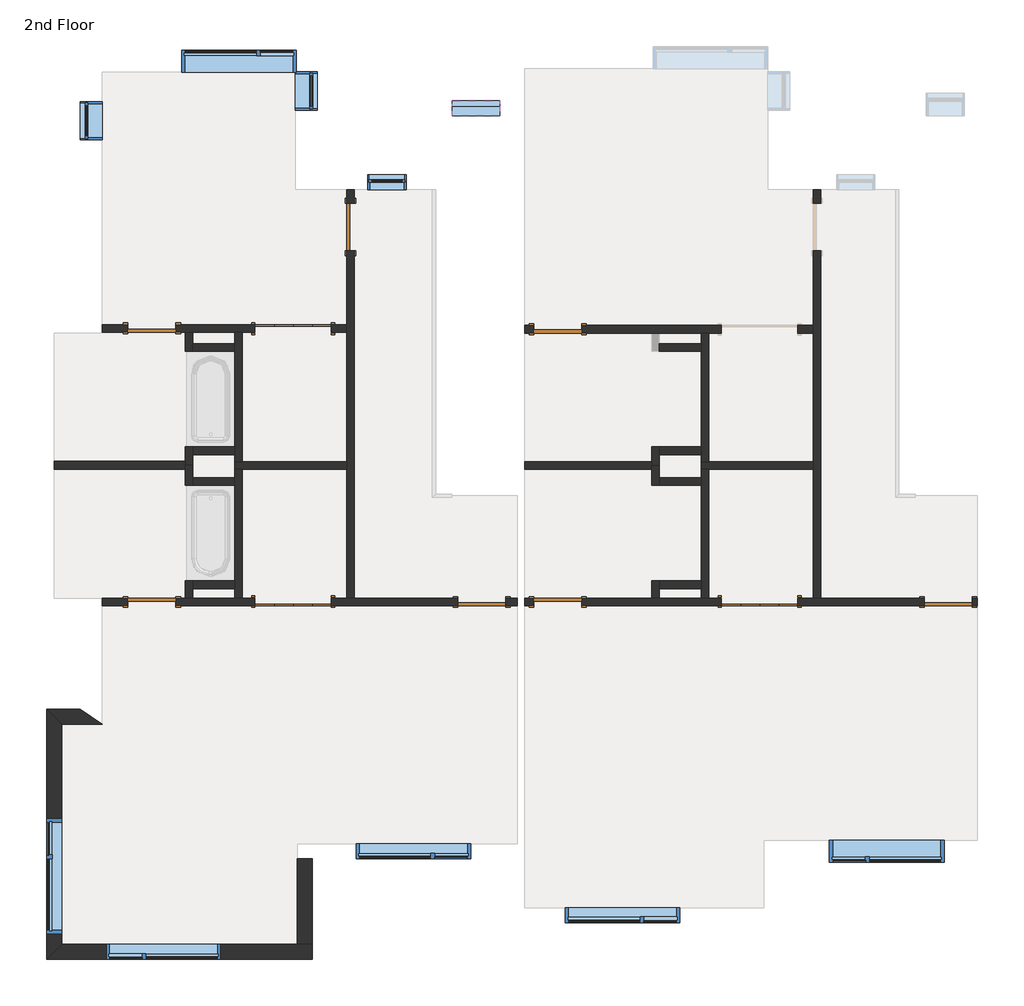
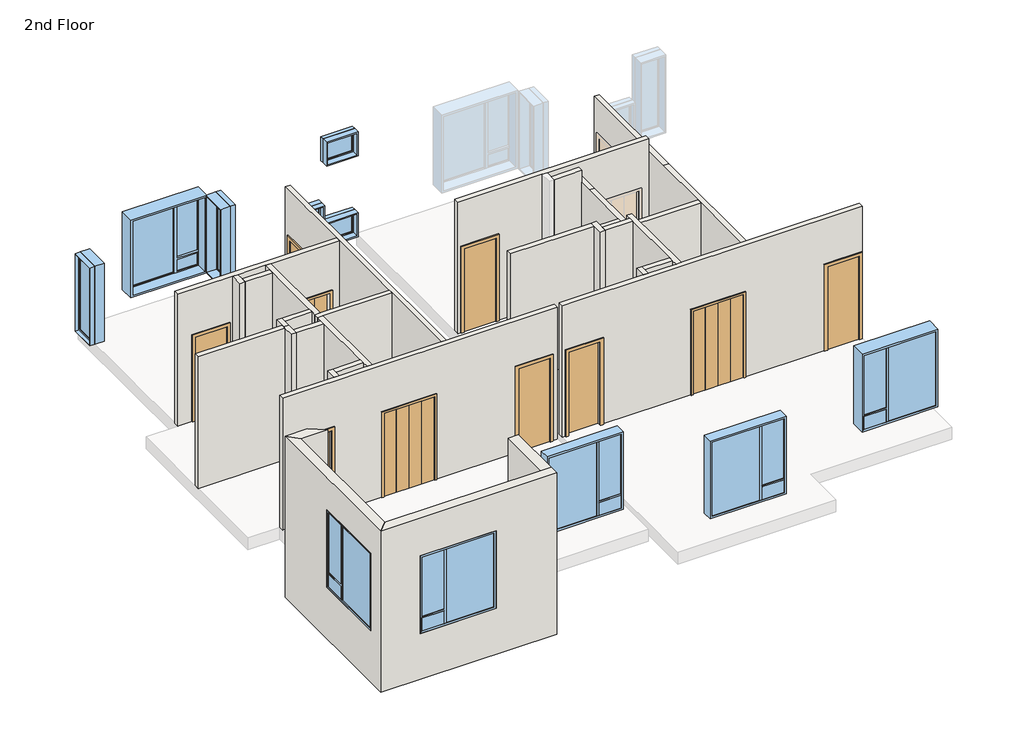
# One storey, part 1 of 2: 33 walls, 12 windows, 10 doors.
"""IFC4 building model written with IfcOpenShell, lengths in millimetres."""

from ifc_helpers import new_model, si_unit, frame, origin, place, context, project, spatial, polyline, outline, extrude, faceted_brep, transform, mapped, element, save
from components import bifold_4_panel_c9060b8c, bifold_4_panel_87549022, door_f8acb57e, door_702a1063, window_8bf192ed, window_b1c1038b, window_03925a3a, window_7b40078c, window_0ea17b29, window_b4566f23

model = new_model("IFC4")

# Units and contexts
model_context = context("Model", 3, world=origin())
ifc_project = project(units=[si_unit("LENGTHUNIT", "METRE", prefix="MILLI")], contexts=[model_context])

# Site, building, storey
site = spatial("IfcSite", under=ifc_project)
building = spatial("IfcBuilding", under=site)
storey = spatial("IfcBuildingStorey", under=building, Name="2nd Floor", Elevation=3352.8)

# Doors
placement = place(None, origin())
bifold_4_panel_shape = bifold_4_panel_c9060b8c(model_context)
element("IfcDoor", 1, ObjectType="Bifold - 4 panel : 48\" x  84\"", at=placement, inside=storey, context=model_context, shape_type="MappedRepresentation", body=[
    mapped(bifold_4_panel_shape, transform((2169.4655789, -2059.4561915, 3352.8), x_axis=(1.0, 0.0, 0.0), y_axis=(0.0, 1.0, 0.0), z_axis=(0.0, 0.0, 1.0))),
])
element("IfcDoor", 2, ObjectType="Bifold - 4 panel : 48\" x  84\"", at=placement, inside=storey, context=model_context, shape_type="MappedRepresentation", body=[
    mapped(bifold_4_panel_shape, transform((-5271.2844211, -2059.4561915, 3352.8), x_axis=(1.0, 0.0, 0.0), y_axis=(0.0, 1.0, 0.0), z_axis=(0.0, 0.0, 1.0))),
])
bifold_4_panel_2_shape = bifold_4_panel_87549022(model_context)
element("IfcDoor", 3, ObjectType="Bifold - 4 panel : 48\" x  84\"", at=placement, inside=storey, context=model_context, shape_type="MappedRepresentation", body=[
    mapped(bifold_4_panel_2_shape, transform((-5271.2844211, 2303.8199206, 3352.8), x_axis=(1.0, 0.0, 0.0), y_axis=(0.0, 1.0, 0.0), z_axis=(0.0, 0.0, 1.0))),
])
door_shape = door_f8acb57e(model_context)
element("IfcDoor", 4, ObjectType="Single-Flush : 30\" x 84\"", at=placement, inside=storey, context=model_context, shape_type="MappedRepresentation", body=[
    mapped(door_shape, transform((-1052.2446781, 2292.6699206, 3352.8), x_axis=(-1.0, 0.0, 0.0), y_axis=(0.0, -1.0, 0.0), z_axis=(0.0, 0.0, 1.0))),
])
element("IfcDoor", 5, ObjectType="Single-Flush : 30\" x 84\"", at=placement, inside=storey, context=model_context, shape_type="MappedRepresentation", body=[
    mapped(door_shape, transform((-4356.8844211, 3921.3063085, 3352.8), x_axis=(0.0, 1.0, 0.0), y_axis=(-1.0, 0.0, 0.0), z_axis=(0.0, 0.0, 1.0))),
])
element("IfcDoor", 6, ObjectType="Single-Flush : 30\" x 84\"", at=placement, inside=storey, context=model_context, shape_type="MappedRepresentation", body=[
    mapped(door_shape, transform((-7524.7446781, -2059.4561915, 3352.8), x_axis=(1.0, 0.0, 0.0), y_axis=(0.0, 1.0, 0.0), z_axis=(0.0, 0.0, 1.0))),
])
door_2_shape = door_702a1063(model_context)
element("IfcDoor", 7, ObjectType="Single-Flush : 30\" x 84\"", at=placement, inside=storey, context=model_context, shape_type="MappedRepresentation", body=[
    mapped(door_2_shape, transform((-1052.2446781, -2059.4561915, 3352.8), x_axis=(-1.0, 0.0, 0.0), y_axis=(0.0, -1.0, 0.0), z_axis=(0.0, 0.0, 1.0))),
])
element("IfcDoor", 8, ObjectType="Single-Flush : 30\" x 84\"", at=placement, inside=storey, context=model_context, shape_type="MappedRepresentation", body=[
    mapped(door_2_shape, transform((5177.5155789, -2059.4561915, 3352.8), x_axis=(1.0, 0.0, 0.0), y_axis=(0.0, 1.0, 0.0), z_axis=(0.0, 0.0, 1.0))),
])
element("IfcDoor", 9, ObjectType="Single-Flush : 30\" x 84\"", at=placement, inside=storey, context=model_context, shape_type="MappedRepresentation", body=[
    mapped(door_2_shape, transform((-7524.7446781, 2303.8199206, 3352.8), x_axis=(1.0, 0.0, 0.0), y_axis=(0.0, 1.0, 0.0), z_axis=(0.0, 0.0, 1.0))),
])
element("IfcDoor", 10, ObjectType="Single-Flush : 30\" x 84\"", at=placement, inside=storey, context=model_context, shape_type="MappedRepresentation", body=[
    mapped(door_2_shape, transform((-2263.2344211, -2059.4561915, 3352.8), x_axis=(1.0, 0.0, 0.0), y_axis=(0.0, 1.0, 0.0), z_axis=(0.0, 0.0, 1.0))),
])

# Walls
element("IfcWall", 11, ObjectType="Exterior - Stucco", at=placement, inside=storey, context=model_context, shape_type="Brep", body=[
    faceted_brep([(-9204.3196781, -7758.9936915, 2952.8), (-4962.9321781, -7758.9936915, 2952.8), (-4962.9321781, -7758.9936915, 7052.8), (-9204.3196781, -7758.9936915, 7052.8), (-8255.0946781, -7758.9936915, 6096.0), (-6426.2946781, -7758.9936915, 6096.0), (-6426.2946781, -7758.9936915, 4114.8), (-8255.0946781, -7758.9936915, 4114.8), (-8963.0196781, -7517.6936915, 2952.8), (-8963.0196781, -7517.6936915, 7052.8), (-5204.2321781, -7517.6936915, 7052.8), (-4962.9321781, -7517.6936915, 7052.8), (-4962.9321781, -7517.6936915, 2952.8), (-5204.2321781, -7517.6936915, 2952.8), (-8255.0946781, -7517.6936915, 6096.0), (-8255.0946781, -7517.6936915, 4114.8), (-6426.2946781, -7517.6936915, 4114.8), (-6426.2946781, -7517.6936915, 6096.0)], [[[0, 1, 2, 3], [4, 5, 6, 7]], [[8, 9, 10, 11, 12, 13], [14, 15, 16, 17]], [[1, 0, 8, 13, 12]], [[3, 2, 11, 10, 9]], [[0, 3, 9, 8]], [[2, 1, 12, 11]], [[15, 14, 4, 7]], [[16, 15, 7, 6]], [[17, 16, 6, 5]], [[14, 17, 5, 4]]]),
])
element("IfcWall", 12, ObjectType="Exterior - Stucco", at=placement, inside=storey, context=model_context, shape_type="Brep", body=[
    faceted_brep([(-9204.3196781, -3770.7811915, 2952.8), (-9204.3196781, -7758.9936915, 2952.8), (-9204.3196781, -7758.9936915, 7052.8), (-9204.3196781, -3770.7811915, 7052.8), (-9204.3196781, -5519.0311915, 6248.4), (-9204.3196781, -7347.8311915, 6248.4), (-9204.3196781, -7347.8311915, 4267.2), (-9204.3196781, -5519.0311915, 4267.2), (-8963.0196781, -4012.0811915, 2952.8), (-8963.0196781, -4012.0811915, 7052.8), (-8963.0196781, -7517.6936915, 7052.8), (-8963.0196781, -7517.6936915, 2952.8), (-8963.0196781, -5519.0311915, 6248.4), (-8963.0196781, -5519.0311915, 4267.2), (-8963.0196781, -7347.8311915, 4267.2), (-8963.0196781, -7347.8311915, 6248.4)], [[[0, 1, 2, 3], [4, 5, 6, 7]], [[8, 9, 10, 11], [12, 13, 14, 15]], [[1, 0, 8, 11]], [[3, 2, 10, 9]], [[2, 1, 11, 10]], [[0, 3, 9, 8]], [[13, 12, 4, 7]], [[14, 13, 7, 6]], [[15, 14, 6, 5]], [[12, 15, 5, 4]]]),
])
element("IfcWall", 13, ObjectType="Exterior - Stucco", at=placement, inside=storey, context=model_context, shape_type="SweptSolid", body=[
    extrude(outline(polyline([(-9204.3196781, -3770.7811915), (-8664.6696781, -3770.7811915), (-8312.2446781, -4012.0811915), (-8963.0196781, -4012.0811915), (-9204.3196781, -3770.7811915)])), frame((0.0, 0.0, 2952.8), z_axis=(0.0, 0.0, 1.0), x_axis=(1.0, 0.0, 0.0)), (0.0, 0.0, 1.0), 4100.0),
])
element("IfcWall", 14, ObjectType="Exterior - Stucco", at=placement, inside=storey, context=model_context, shape_type="Brep", body=[
    faceted_brep([(-4962.9321781, -7517.6936915, 2952.75), (-4962.9321781, -6155.1546456, 2952.75), (-4962.9321781, -6155.1546456, 7052.6671875), (-4962.9321781, -7517.6936915, 7052.6671875), (-5204.2321781, -7517.6936915, 2952.75), (-5204.2321781, -7517.6936915, 7052.6671875), (-5204.2321781, -6155.1546456, 7052.6671875), (-5204.2321781, -6155.1546456, 3048.0), (-5204.2321781, -6155.1546456, 2952.75)], [[[0, 1, 2, 3]], [[4, 5, 6, 7, 8]], [[1, 0, 4, 8]], [[3, 2, 6, 5]], [[1, 8, 7, 6, 2]], [[0, 3, 5, 4]]]),
])
element("IfcWall", 15, ObjectType="Interior - 4 7/8\" Partition (1-hr)", at=placement, inside=storey, context=model_context, shape_type="Brep", body=[
    faceted_brep([(3145.7780789, 4302.3063085, 5486.4), (3145.7780789, 4302.3063085, 3352.8), (3145.7780789, 4511.8563085, 3352.8), (3145.7780789, 4511.8563085, 6400.8), (3145.7780789, 1625.1313085, 6400.8), (3145.7780789, -1997.5436915, 6400.8), (3145.7780789, -1997.5436915, 3352.8), (3145.7780789, 3540.3063085, 3352.8), (3145.7780789, 3540.3063085, 5486.4), (3021.9530789, 4511.8563085, 3352.8), (3021.9530789, 4302.3063085, 3352.8), (3021.9530789, 4302.3063085, 5486.4), (3021.9530789, 3540.3063085, 5486.4), (3021.9530789, 3540.3063085, 3352.8), (3021.9530789, 2354.5824206, 3352.8), (3021.9530789, 2230.7574206, 3352.8), (3021.9530789, 178.5193646, 3352.8), (3021.9530789, 54.6943646, 3352.8), (3021.9530789, -1997.5436915, 3352.8), (3021.9530789, -1997.5436915, 6400.8), (3021.9530789, 54.6943646, 6400.8), (3021.9530789, 178.5193646, 6400.8), (3021.9530789, 1625.1313085, 6400.8), (3021.9530789, 4511.8563085, 6400.8)], [[[0, 1, 2, 3, 4, 5, 6, 7, 8]], [[9, 10, 11, 12, 13, 14, 15, 16, 17, 18, 19, 20, 21, 22, 23]], [[2, 1, 10, 9]], [[7, 6, 18, 17, 16, 15, 14, 13]], [[9, 23, 3, 2]], [[19, 18, 6, 5]], [[23, 22, 4, 3]], [[22, 21, 20, 19, 5, 4]], [[11, 10, 1, 0]], [[12, 11, 0, 8]], [[13, 12, 8, 7]]]),
])
element("IfcWall", 16, ObjectType="Interior - 4 7/8\" Partition (1-hr)", at=placement, inside=storey, context=model_context, shape_type="Brep", body=[
    faceted_brep([(3021.9530789, 54.6943646, 3352.8), (3021.9530789, 54.6943646, 6400.8), (1235.1530789, 54.6943646, 6400.8), (1235.1530789, 54.6943646, 3352.8), (1358.9780789, 54.6943646, 3352.8), (3021.9530789, 178.5193646, 3352.8), (1358.9780789, 178.5193646, 3352.8), (1235.1530789, 178.5193646, 3352.8), (1235.1530789, 178.5193646, 6400.8), (1358.9780789, 178.5193646, 6400.8), (3021.9530789, 178.5193646, 6400.8)], [[[0, 1, 2, 3, 4]], [[5, 6, 7, 8, 9, 10]], [[7, 6, 5, 0, 4, 3]], [[8, 7, 3, 2]], [[5, 10, 1, 0]], [[10, 9, 8, 2, 1]]]),
])
element("IfcWall", 17, ObjectType="Interior - 4 7/8\" Partition (1-hr)", at=placement, inside=storey, context=model_context, shape_type="Brep", body=[
    faceted_brep([(3021.9530789, 2354.5824206, 6705.6), (-1576.1196781, 2354.5824206, 6705.6), (-1576.1196781, 2230.7574206, 6705.6), (447.7530789, 2230.7574206, 6705.6), (571.5780789, 2230.7574206, 6705.6), (3021.9530789, 2230.7574206, 6705.6), (-1576.1196781, 2230.7574206, 3352.8), (-1433.2446781, 2230.7574206, 3352.8), (-1433.2446781, 2230.7574206, 5486.4), (-671.2446781, 2230.7574206, 5486.4), (-671.2446781, 2230.7574206, 3352.8), (447.7530789, 2230.7574206, 3352.8), (571.5780789, 2230.7574206, 3352.8), (1235.1530789, 2230.7574206, 3352.8), (1358.9780789, 2230.7574206, 3352.8), (1559.8655789, 2230.7574206, 3352.8), (1559.8655789, 2230.7574206, 5486.4), (2779.0655789, 2230.7574206, 5486.4), (2779.0655789, 2230.7574206, 3352.8), (3021.9530789, 2230.7574206, 3352.8), (3021.9530789, 2354.5824206, 3352.8), (2779.0655789, 2354.5824206, 3352.8), (2779.0655789, 2354.5824206, 5486.4), (1559.8655789, 2354.5824206, 5486.4), (1559.8655789, 2354.5824206, 3352.8), (-671.2446781, 2354.5824206, 3352.8), (-671.2446781, 2354.5824206, 5486.4), (-1433.2446781, 2354.5824206, 5486.4), (-1433.2446781, 2354.5824206, 3352.8), (-1576.1196781, 2354.5824206, 3352.8)], [[[0, 1, 2, 3, 4, 5]], [[5, 4, 3, 2, 6, 7, 8, 9, 10, 11, 12, 13, 14, 15, 16, 17, 18, 19]], [[1, 0, 20, 21, 22, 23, 24, 25, 26, 27, 28, 29]], [[20, 19, 18, 21]], [[6, 29, 28, 7]], [[24, 15, 14, 13, 12, 11, 10, 25]], [[20, 0, 5, 19]], [[1, 29, 6, 2]], [[17, 22, 21, 18]], [[22, 17, 16, 23]], [[23, 16, 15, 24]], [[27, 8, 7, 28]], [[8, 27, 26, 9]], [[9, 26, 25, 10]]]),
])
element("IfcWall", 18, ObjectType="Interior - 4 7/8\" Partition (1-hr)", at=placement, inside=storey, context=model_context, shape_type="Brep", body=[
    faceted_brep([(1235.1530789, 178.5193646, 3352.8), (1235.1530789, 178.5193646, 6400.8), (1235.1530789, 289.2824206, 6400.8), (1235.1530789, 413.1074206, 6400.8), (1235.1530789, 1625.1313085, 6400.8), (1235.1530789, 2230.7574206, 6400.8), (1235.1530789, 2230.7574206, 3352.8), (1235.1530789, 2060.9324206, 3352.8), (1235.1530789, 1937.1074206, 3352.8), (1235.1530789, 413.1074206, 3352.8), (1235.1530789, 289.2824206, 3352.8), (1358.9780789, 178.5193646, 3352.8), (1358.9780789, 2230.7574206, 3352.8), (1358.9780789, 2230.7574206, 6400.8), (1358.9780789, 1625.1313085, 6400.8), (1358.9780789, 178.5193646, 6400.8)], [[[0, 1, 2, 3, 4, 5, 6, 7, 8, 9, 10]], [[11, 12, 13, 14, 15]], [[12, 11, 0, 10, 9, 8, 7, 6]], [[11, 15, 1, 0]], [[13, 12, 6, 5]], [[14, 13, 5, 4]], [[15, 14, 4, 3, 2, 1]]]),
])
element("IfcWall", 19, ObjectType="Interior - 4 7/8\" Partition (1-hr)", at=placement, inside=storey, context=model_context, shape_type="SweptSolid", body=[
    extrude(outline(polyline([(1235.1530789, 1937.1074206), (571.5780789, 1937.1074206), (571.5780789, 2060.9324206), (1235.1530789, 2060.9324206), (1235.1530789, 1937.1074206)])), frame((0.0, 0.0, 3352.8), z_axis=(0.0, 0.0, 1.0), x_axis=(1.0, 0.0, 0.0)), (0.0, 0.0, 1.0), 3352.8),
])
element("IfcWall", 20, ObjectType="Interior - 4 7/8\" Partition (1-hr)", at=placement, inside=storey, context=model_context, shape_type="Brep", body=[
    faceted_brep([(571.5780789, 116.6068646, 3352.8), (571.5780789, 116.6068646, 6400.8), (447.7530789, 116.6068646, 6400.8), (447.7530789, 116.6068646, 3352.8), (447.7530789, 178.5193646, 6400.8), (447.7530789, 413.1074206, 6400.8), (447.7530789, 413.1074206, 3352.8), (447.7530789, 178.5193646, 3352.8), (571.5780789, 289.2824206, 3352.8), (571.5780789, 413.1074206, 3352.8), (571.5780789, 413.1074206, 6400.8), (571.5780789, 289.2824206, 6400.8), (571.5780789, 178.5193646, 6400.8)], [[[0, 1, 2, 3]], [[3, 2, 4, 5, 6, 7]], [[0, 8, 9, 10, 11, 12, 1]], [[9, 8, 0, 3, 7, 6]], [[10, 9, 6, 5]], [[1, 12, 11, 10, 5, 4, 2]]]),
])
element("IfcWall", 21, ObjectType="Interior - 4 7/8\" Partition (1-hr)", at=placement, inside=storey, context=model_context, shape_type="SweptSolid", body=[
    extrude(outline(polyline([(1235.1530789, 289.2824206), (571.5780789, 289.2824206), (571.5780789, 413.1074206), (1235.1530789, 413.1074206), (1235.1530789, 289.2824206)])), frame((0.0, 0.0, 3352.8), z_axis=(0.0, 0.0, 1.0), x_axis=(1.0, 0.0, 0.0)), (0.0, 0.0, 1.0), 3048.0),
])
element("IfcWall", 22, ObjectType="Interior - 4 7/8\" Partition (1-hr)", at=placement, inside=storey, context=model_context, shape_type="Brep", body=[
    faceted_brep([(5642.6530789, -1997.5436915, 3352.8), (5558.5155789, -1997.5436915, 3352.8), (5558.5155789, -1997.5436915, 5486.4), (4796.5155789, -1997.5436915, 5486.4), (4796.5155789, -1997.5436915, 3352.8), (3145.7780789, -1997.5436915, 3352.8), (3021.9530789, -1997.5436915, 3352.8), (2779.0655789, -1997.5436915, 3352.8), (2779.0655789, -1997.5436915, 5486.4), (1559.8655789, -1997.5436915, 5486.4), (1559.8655789, -1997.5436915, 3352.8), (1358.9780789, -1997.5436915, 3352.8), (1235.1530789, -1997.5436915, 3352.8), (571.5780789, -1997.5436915, 3352.8), (447.7530789, -1997.5436915, 3352.8), (-671.2446781, -1997.5436915, 3352.8), (-671.2446781, -1997.5436915, 5486.4), (-1433.2446781, -1997.5436915, 5486.4), (-1433.2446781, -1997.5436915, 3352.8), (-1576.1196781, -1997.5436915, 3352.8), (-1576.1196781, -1997.5436915, 6705.6), (447.7530789, -1997.5436915, 6705.6), (571.5780789, -1997.5436915, 6705.6), (1235.1530789, -1997.5436915, 6705.6), (1358.9780789, -1997.5436915, 6705.6), (5642.6530789, -1997.5436915, 6705.6), (5558.5155789, -2121.3686915, 5486.4), (5558.5155789, -2121.3686915, 3352.8), (5642.6530789, -2121.3686915, 3352.8), (5642.6530789, -2121.3686915, 6705.6), (-1576.1196781, -2121.3686915, 6705.6), (-1576.1196781, -2121.3686915, 3352.8), (-1433.2446781, -2121.3686915, 3352.8), (-1433.2446781, -2121.3686915, 5486.4), (-671.2446781, -2121.3686915, 5486.4), (-671.2446781, -2121.3686915, 3352.8), (1559.8655789, -2121.3686915, 3352.8), (1559.8655789, -2121.3686915, 5486.4), (2779.0655789, -2121.3686915, 5486.4), (2779.0655789, -2121.3686915, 3352.8), (4796.5155789, -2121.3686915, 3352.8), (4796.5155789, -2121.3686915, 5486.4)], [[[0, 1, 2, 3, 4, 5, 6, 7, 8, 9, 10, 11, 12, 13, 14, 15, 16, 17, 18, 19, 20, 21, 22, 23, 24, 25]], [[26, 27, 28, 29, 30, 31, 32, 33, 34, 35, 36, 37, 38, 39, 40, 41]], [[28, 27, 1, 0]], [[31, 19, 18, 32]], [[10, 36, 35, 15, 14, 13, 12, 11]], [[40, 39, 7, 6, 5, 4]], [[25, 24, 23, 22, 21, 20, 30, 29]], [[0, 25, 29, 28]], [[20, 19, 31, 30]], [[8, 7, 39, 38]], [[9, 8, 38, 37]], [[10, 9, 37, 36]], [[17, 33, 32, 18]], [[33, 17, 16, 34]], [[34, 16, 15, 35]], [[2, 1, 27, 26]], [[3, 2, 26, 41]], [[4, 3, 41, 40]]]),
])
element("IfcWall", 23, ObjectType="Interior - 4 7/8\" Partition (1-hr)", at=placement, inside=storey, context=model_context, shape_type="Brep", body=[
    faceted_brep([(1235.1530789, 54.6943646, 3352.8), (1235.1530789, -76.6556354, 3352.8), (1235.1530789, -200.4806354, 3352.8), (1235.1530789, -1724.4806354, 3352.8), (1235.1530789, -1848.3056354, 3352.8), (1235.1530789, -1997.5436915, 3352.8), (1235.1530789, -1997.5436915, 6705.6), (1235.1530789, -1848.3056354, 6705.6), (1235.1530789, -1724.4806354, 6705.6), (1235.1530789, -200.4806354, 6705.6), (1235.1530789, -76.6556354, 6705.6), (1235.1530789, 54.6943646, 6705.6), (1235.1530789, 54.6943646, 6400.8), (1358.9780789, 54.6943646, 3352.8), (1358.9780789, 54.6943646, 6705.6), (1358.9780789, -1997.5436915, 6705.6), (1358.9780789, -1997.5436915, 3352.8)], [[[0, 1, 2, 3, 4, 5, 6, 7, 8, 9, 10, 11, 12]], [[13, 14, 15, 16]], [[5, 4, 3, 2, 1, 0, 13, 16]], [[11, 10, 9, 8, 7, 6, 15, 14]], [[6, 5, 16, 15]], [[0, 12, 11, 14, 13]]]),
])
element("IfcWall", 24, ObjectType="Interior - 4 7/8\" Partition (1-hr)", at=placement, inside=storey, context=model_context, shape_type="Brep", body=[
    faceted_brep([(571.5780789, -1997.5436915, 3352.8), (571.5780789, -1848.3056354, 3352.8), (571.5780789, -1724.4806354, 3352.8), (571.5780789, -1724.4806354, 6705.6), (571.5780789, -1848.3056354, 6705.6), (571.5780789, -1997.5436915, 6705.6), (447.7530789, -1997.5436915, 3352.8), (447.7530789, -1997.5436915, 6705.6), (447.7530789, -1724.4806354, 6705.6), (447.7530789, -1724.4806354, 3352.8)], [[[0, 1, 2, 3, 4, 5]], [[6, 7, 8, 9]], [[2, 1, 0, 6, 9]], [[5, 4, 3, 8, 7]], [[3, 2, 9, 8]], [[0, 5, 7, 6]]]),
])
element("IfcWall", 25, ObjectType="Interior - 4 7/8\" Partition (1-hr)", at=placement, inside=storey, context=model_context, shape_type="SweptSolid", body=[
    extrude(outline(polyline([(1235.1530789, -1848.3056354), (571.5780789, -1848.3056354), (571.5780789, -1724.4806354), (1235.1530789, -1724.4806354), (1235.1530789, -1848.3056354)])), frame((0.0, 0.0, 3352.8), z_axis=(0.0, 0.0, 1.0), x_axis=(1.0, 0.0, 0.0)), (0.0, 0.0, 1.0), 3352.8),
])
element("IfcWall", 26, ObjectType="Interior - 4 7/8\" Partition (1-hr)", at=placement, inside=storey, context=model_context, shape_type="Brep", body=[
    faceted_brep([(447.7530789, 116.6068646, 3352.8), (447.7530789, 54.6943646, 3352.8), (447.7530789, -200.4806354, 3352.8), (447.7530789, -200.4806354, 6705.6), (447.7530789, 54.6943646, 6705.6), (447.7530789, 178.5193646, 6705.6), (447.7530789, 178.5193646, 6400.8), (447.7530789, 116.6068646, 6400.8), (571.5780789, 116.6068646, 3352.8), (571.5780789, 116.6068646, 6400.8), (571.5780789, 178.5193646, 6400.8), (571.5780789, 178.5193646, 6705.6), (571.5780789, -76.6556354, 6705.6), (571.5780789, -200.4806354, 6705.6), (571.5780789, -200.4806354, 3352.8), (571.5780789, -76.6556354, 3352.8)], [[[0, 1, 2, 3, 4, 5, 6, 7]], [[8, 9, 10, 11, 12, 13, 14, 15]], [[2, 1, 0, 8, 15, 14]], [[5, 4, 3, 13, 12, 11]], [[3, 2, 14, 13]], [[0, 7, 9, 8]], [[6, 10, 9, 7]], [[6, 5, 11, 10]]]),
])
element("IfcWall", 27, ObjectType="Interior - 4 7/8\" Partition (1-hr)", at=placement, inside=storey, context=model_context, shape_type="SweptSolid", body=[
    extrude(outline(polyline([(1235.1530789, -200.4806354), (571.5780789, -200.4806354), (571.5780789, -76.6556354), (1235.1530789, -76.6556354), (1235.1530789, -200.4806354)])), frame((0.0, 0.0, 3352.8), z_axis=(0.0, 0.0, 1.0), x_axis=(1.0, 0.0, 0.0)), (0.0, 0.0, 1.0), 3352.8),
])
element("IfcWall", 28, ObjectType="Interior - 4 7/8\" Partition (1-hr)", at=placement, inside=storey, context=model_context, shape_type="Brep", body=[
    faceted_brep([(447.7530789, 178.5193646, 6705.6), (447.7530789, 178.5193646, 6400.8), (447.7530789, 178.5193646, 3352.8), (-1576.1196781, 178.5193646, 3352.8), (-1576.1196781, 178.5193646, 6705.6), (447.7530789, 54.6943646, 3352.8), (447.7530789, 54.6943646, 6705.6), (-1576.1196781, 54.6943646, 6705.6), (-1576.1196781, 54.6943646, 3352.8), (447.7530789, 116.6068646, 3352.8)], [[[0, 1, 2, 3, 4]], [[5, 6, 7, 8]], [[3, 2, 9, 5, 8]], [[0, 4, 7, 6]], [[0, 6, 5, 9, 2, 1]], [[4, 3, 8, 7]]]),
])
element("IfcWall", 29, ObjectType="Interior - 4 7/8\" Partition (1-hr)", at=placement, inside=storey, context=model_context, shape_type="Brep", body=[
    faceted_brep([(-4418.7969211, 4511.8563085, 6705.6), (-4418.7969211, 2365.7324206, 6705.6), (-4418.7969211, 2241.9074206, 6705.6), (-4418.7969211, 178.5193646, 6705.6), (-4418.7969211, 54.6943646, 6705.6), (-4418.7969211, -1997.5436915, 6705.6), (-4294.9719211, -1997.5436915, 6705.6), (-4294.9719211, 4511.8563085, 6705.6), (-4294.9719211, 4302.3063085, 5486.4), (-4294.9719211, 4302.3063085, 3352.8), (-4294.9719211, 4511.8563085, 3352.8), (-4294.9719211, -1997.5436915, 3352.8), (-4294.9719211, 3540.3063085, 3352.8), (-4294.9719211, 3540.3063085, 5486.4), (-4418.7969211, 4511.8563085, 3352.8), (-4418.7969211, 4302.3063085, 3352.8), (-4418.7969211, 4302.3063085, 5486.4), (-4418.7969211, 3540.3063085, 5486.4), (-4418.7969211, 3540.3063085, 3352.8), (-4418.7969211, 2365.7324206, 3352.8), (-4418.7969211, 2241.9074206, 3352.8), (-4418.7969211, 178.5193646, 3352.8), (-4418.7969211, 54.6943646, 3352.8), (-4418.7969211, -1997.5436915, 3352.8)], [[[0, 1, 2, 3, 4, 5, 6, 7]], [[8, 9, 10, 7, 6, 11, 12, 13]], [[14, 15, 16, 17, 18, 19, 20, 21, 22, 23, 5, 4, 3, 2, 1, 0]], [[10, 9, 15, 14]], [[12, 11, 23, 22, 21, 20, 19, 18]], [[5, 23, 11, 6]], [[14, 0, 7, 10]], [[16, 15, 9, 8]], [[17, 16, 8, 13]], [[18, 17, 13, 12]]]),
])
element("IfcWall", 30, ObjectType="Interior - 4 7/8\" Partition (1-hr)", at=placement, inside=storey, context=model_context, shape_type="Brep", body=[
    faceted_brep([(-4418.7969211, 178.5193646, 3352.8), (-6081.7719211, 178.5193646, 3352.8), (-6205.5969211, 178.5193646, 3352.8), (-6205.5969211, 178.5193646, 6705.6), (-6081.7719211, 178.5193646, 6705.6), (-4418.7969211, 178.5193646, 6705.6), (-4418.7969211, 54.6943646, 3352.8), (-4418.7969211, 54.6943646, 6705.6), (-6081.7719211, 54.6943646, 6705.6), (-6205.5969211, 54.6943646, 6705.6), (-6205.5969211, 54.6943646, 3352.8), (-6081.7719211, 54.6943646, 3352.8)], [[[0, 1, 2, 3, 4, 5]], [[6, 7, 8, 9, 10, 11]], [[2, 1, 0, 6, 11, 10]], [[5, 4, 3, 9, 8, 7]], [[3, 2, 10, 9]], [[0, 5, 7, 6]]]),
])
element("IfcWall", 31, ObjectType="Interior - 4 7/8\" Partition (1-hr)", at=placement, inside=storey, context=model_context, shape_type="Brep", body=[
    faceted_brep([(-8312.2446781, 2365.7324206, 6705.6), (-4418.7969211, 2365.7324206, 6705.6), (-4418.7969211, 2365.7324206, 3352.8), (-4661.6844211, 2365.7324206, 3352.8), (-4661.6844211, 2365.7324206, 5486.4), (-5880.8844211, 2365.7324206, 5486.4), (-5880.8844211, 2365.7324206, 3352.8), (-7143.7446781, 2365.7324206, 3352.8), (-7143.7446781, 2365.7324206, 5486.4), (-7905.7446781, 2365.7324206, 5486.4), (-7905.7446781, 2365.7324206, 3352.8), (-8312.2446781, 2365.7324206, 3352.8), (-4418.7969211, 2241.9074206, 6705.6), (-6081.7719211, 2241.9074206, 6705.6), (-6205.5969211, 2241.9074206, 6705.6), (-6869.1719211, 2241.9074206, 6705.6), (-6992.9969211, 2241.9074206, 6705.6), (-8312.2446781, 2241.9074206, 6705.6), (-8312.2446781, 2241.9074206, 3352.8), (-7905.7446781, 2241.9074206, 3352.8), (-7905.7446781, 2241.9074206, 5486.4), (-7143.7446781, 2241.9074206, 5486.4), (-7143.7446781, 2241.9074206, 3352.8), (-6992.9969211, 2241.9074206, 3352.8), (-6869.1719211, 2241.9074206, 3352.8), (-6205.5969211, 2241.9074206, 3352.8), (-6081.7719211, 2241.9074206, 3352.8), (-5880.8844211, 2241.9074206, 3352.8), (-5880.8844211, 2241.9074206, 5486.4), (-4661.6844211, 2241.9074206, 5486.4), (-4661.6844211, 2241.9074206, 3352.8), (-4418.7969211, 2241.9074206, 3352.8)], [[[0, 1, 2, 3, 4, 5, 6, 7, 8, 9, 10, 11]], [[12, 13, 14, 15, 16, 17, 18, 19, 20, 21, 22, 23, 24, 25, 26, 27, 28, 29, 30, 31]], [[2, 31, 30, 3]], [[18, 11, 10, 19]], [[6, 27, 26, 25, 24, 23, 22, 7]], [[1, 0, 17, 16, 15, 14, 13, 12]], [[2, 1, 12, 31]], [[0, 11, 18, 17]], [[29, 4, 3, 30]], [[4, 29, 28, 5]], [[5, 28, 27, 6]], [[21, 8, 7, 22]], [[8, 21, 20, 9]], [[9, 20, 19, 10]]]),
])
element("IfcWall", 32, ObjectType="Interior - 4 7/8\" Partition (1-hr)", at=placement, inside=storey, context=model_context, shape_type="Brep", body=[
    faceted_brep([(-1699.9446781, -1997.5436915, 6705.6), (-4294.9719211, -1997.5436915, 6705.6), (-4418.7969211, -1997.5436915, 6705.6), (-6081.7719211, -1997.5436915, 6705.6), (-6205.5969211, -1997.5436915, 6705.6), (-6869.1719211, -1997.5436915, 6705.6), (-6992.9969211, -1997.5436915, 6705.6), (-8312.2446781, -1997.5436915, 6705.6), (-8312.2446781, -2121.3686915, 6705.6), (-1699.9446781, -2121.3686915, 6705.6), (-1882.2344211, -2121.3686915, 5486.4), (-1882.2344211, -2121.3686915, 3352.8), (-1699.9446781, -2121.3686915, 3352.8), (-8312.2446781, -2121.3686915, 3352.8), (-7905.7446781, -2121.3686915, 3352.8), (-7905.7446781, -2121.3686915, 5486.4), (-7143.7446781, -2121.3686915, 5486.4), (-7143.7446781, -2121.3686915, 3352.8), (-6218.0913287, -2121.3686915, 3352.8), (-5880.8844211, -2121.3686915, 3352.8), (-5880.8844211, -2121.3686915, 5486.4), (-4661.6844211, -2121.3686915, 5486.4), (-4661.6844211, -2121.3686915, 3352.8), (-2644.2344211, -2121.3686915, 3352.8), (-2644.2344211, -2121.3686915, 5486.4), (-1699.9446781, -1997.5436915, 3352.8), (-1882.2344211, -1997.5436915, 3352.8), (-1882.2344211, -1997.5436915, 5486.4), (-2644.2344211, -1997.5436915, 5486.4), (-2644.2344211, -1997.5436915, 3352.8), (-4294.9719211, -1997.5436915, 3352.8), (-4418.7969211, -1997.5436915, 3352.8), (-4661.6844211, -1997.5436915, 3352.8), (-4661.6844211, -1997.5436915, 5486.4), (-5880.8844211, -1997.5436915, 5486.4), (-5880.8844211, -1997.5436915, 3352.8), (-6081.7719211, -1997.5436915, 3352.8), (-6205.5969211, -1997.5436915, 3352.8), (-6218.0913287, -1997.5436915, 3352.8), (-6869.1719211, -1997.5436915, 3352.8), (-6992.9969211, -1997.5436915, 3352.8), (-7143.7446781, -1997.5436915, 3352.8), (-7143.7446781, -1997.5436915, 5486.4), (-7905.7446781, -1997.5436915, 5486.4), (-7905.7446781, -1997.5436915, 3352.8), (-8312.2446781, -1997.5436915, 3352.8)], [[[0, 1, 2, 3, 4, 5, 6, 7, 8, 9]], [[10, 11, 12, 9, 8, 13, 14, 15, 16, 17, 18, 19, 20, 21, 22, 23, 24]], [[25, 26, 27, 28, 29, 30, 31, 32, 33, 34, 35, 36, 37, 38, 39, 40, 41, 42, 43, 44, 45, 7, 6, 5, 4, 3, 2, 1, 0]], [[13, 45, 44, 14]], [[12, 11, 26, 25]], [[35, 19, 18, 17, 41, 40, 39, 38, 37, 36]], [[23, 22, 32, 31, 30, 29]], [[7, 45, 13, 8]], [[25, 0, 9, 12]], [[33, 32, 22, 21]], [[34, 33, 21, 20]], [[35, 34, 20, 19]], [[16, 42, 41, 17]], [[42, 16, 15, 43]], [[43, 15, 14, 44]], [[27, 26, 11, 10]], [[28, 27, 10, 24]], [[29, 28, 24, 23]]]),
])
element("IfcWall", 33, ObjectType="Interior - 4 7/8\" Partition (1-hr)", at=placement, inside=storey, context=model_context, shape_type="Brep", body=[
    faceted_brep([(-6205.5969211, 54.6943646, 3352.8), (-6205.5969211, -76.6556354, 3352.8), (-6205.5969211, -200.4806354, 3352.8), (-6205.5969211, -1724.4806354, 3352.8), (-6205.5969211, -1848.3056354, 3352.8), (-6205.5969211, -1997.5436915, 3352.8), (-6205.5969211, -1997.5436915, 6705.6), (-6205.5969211, -1848.3056354, 6705.6), (-6205.5969211, -1724.4806354, 6705.6), (-6205.5969211, -200.4806354, 6705.6), (-6205.5969211, -76.6556354, 6705.6), (-6205.5969211, 54.6943646, 6705.6), (-6081.7719211, 54.6943646, 3352.8), (-6081.7719211, 54.6943646, 6705.6), (-6081.7719211, -1997.5436915, 6705.6), (-6081.7719211, -1997.5436915, 3352.8)], [[[0, 1, 2, 3, 4, 5, 6, 7, 8, 9, 10, 11]], [[12, 13, 14, 15]], [[5, 4, 3, 2, 1, 0, 12, 15]], [[11, 10, 9, 8, 7, 6, 14, 13]], [[6, 5, 15, 14]], [[0, 11, 13, 12]]]),
])
element("IfcWall", 34, ObjectType="Interior - 4 7/8\" Partition (1-hr)", at=placement, inside=storey, context=model_context, shape_type="Brep", body=[
    faceted_brep([(-6869.1719211, -1997.5436915, 3352.8), (-6869.1719211, -1848.3056354, 3352.8), (-6869.1719211, -1724.4806354, 3352.8), (-6869.1719211, -1724.4806354, 6705.6), (-6869.1719211, -1848.3056354, 6705.6), (-6869.1719211, -1997.5436915, 6705.6), (-6992.9969211, -1997.5436915, 3352.8), (-6992.9969211, -1997.5436915, 6705.6), (-6992.9969211, -1724.4806354, 6705.6), (-6992.9969211, -1724.4806354, 3352.8)], [[[0, 1, 2, 3, 4, 5]], [[6, 7, 8, 9]], [[2, 1, 0, 6, 9]], [[5, 4, 3, 8, 7]], [[3, 2, 9, 8]], [[0, 5, 7, 6]]]),
])
element("IfcWall", 35, ObjectType="Interior - 4 7/8\" Partition (1-hr)", at=placement, inside=storey, context=model_context, shape_type="SweptSolid", body=[
    extrude(outline(polyline([(-6205.5969211, -1848.3056354), (-6869.1719211, -1848.3056354), (-6869.1719211, -1724.4806354), (-6205.5969211, -1724.4806354), (-6205.5969211, -1848.3056354)])), frame((0.0, 0.0, 3352.8), z_axis=(0.0, 0.0, 1.0), x_axis=(1.0, 0.0, 0.0)), (0.0, 0.0, 1.0), 3352.8),
])
element("IfcWall", 36, ObjectType="Interior - 4 7/8\" Partition (1-hr)", at=placement, inside=storey, context=model_context, shape_type="Brep", body=[
    faceted_brep([(-6992.9969211, 122.5949206, 3352.8), (-6992.9969211, 60.6824206, 3352.8), (-6992.9969211, -200.4806354, 3352.8), (-6992.9969211, -200.4806354, 6705.6), (-6992.9969211, 60.6824206, 6705.6), (-6992.9969211, 122.5949206, 6705.6), (-6869.1719211, 122.5949206, 3352.8), (-6869.1719211, 122.5949206, 6705.6), (-6869.1719211, -76.6556354, 6705.6), (-6869.1719211, -200.4806354, 6705.6), (-6869.1719211, -200.4806354, 3352.8), (-6869.1719211, -76.6556354, 3352.8)], [[[0, 1, 2, 3, 4, 5]], [[6, 7, 8, 9, 10, 11]], [[2, 1, 0, 6, 11, 10]], [[5, 4, 3, 9, 8, 7]], [[0, 5, 7, 6]], [[3, 2, 10, 9]]]),
])
element("IfcWall", 37, ObjectType="Interior - 4 7/8\" Partition (1-hr)", at=placement, inside=storey, context=model_context, shape_type="SweptSolid", body=[
    extrude(outline(polyline([(-6205.5969211, -200.4806354), (-6869.1719211, -200.4806354), (-6869.1719211, -76.6556354), (-6205.5969211, -76.6556354), (-6205.5969211, -200.4806354)])), frame((0.0, 0.0, 3352.8), z_axis=(0.0, 0.0, 1.0), x_axis=(1.0, 0.0, 0.0)), (0.0, 0.0, 1.0), 3352.8),
])
element("IfcWall", 38, ObjectType="Interior - Tile Wainscot", at=placement, inside=storey, context=model_context, shape_type="Brep", body=[
    faceted_brep([(-6081.7719211, 178.5193646, 3352.8), (-6081.7719211, 2241.9074206, 3352.8), (-6081.7719211, 2241.9074206, 6705.6), (-6081.7719211, 178.5193646, 6705.6), (-6205.5969211, 178.5193646, 3352.8), (-6205.5969211, 178.5193646, 6705.6), (-6205.5969211, 289.2824206, 6705.6), (-6205.5969211, 413.1074206, 6705.6), (-6205.5969211, 1937.1074206, 6705.6), (-6205.5969211, 2060.9324206, 6705.6), (-6205.5969211, 2241.9074206, 6705.6), (-6205.5969211, 2241.9074206, 3352.8), (-6205.5969211, 2060.9324206, 3352.8), (-6205.5969211, 1937.1074206, 3352.8), (-6205.5969211, 413.1074206, 3352.8), (-6205.5969211, 289.2824206, 3352.8)], [[[0, 1, 2, 3]], [[4, 5, 6, 7, 8, 9, 10, 11, 12, 13, 14, 15]], [[1, 0, 4, 15, 14, 13, 12, 11]], [[3, 2, 10, 9, 8, 7, 6, 5]], [[0, 3, 5, 4]], [[2, 1, 11, 10]]]),
])
element("IfcWall", 39, ObjectType="Interior - Tile Wainscot", at=placement, inside=storey, context=model_context, shape_type="Brep", body=[
    faceted_brep([(-6992.9969211, 2241.9074206, 3352.8), (-6992.9969211, 1937.1074206, 3352.8), (-6992.9969211, 1937.1074206, 6705.6), (-6992.9969211, 2241.9074206, 6705.6), (-6869.1719211, 2241.9074206, 3352.8), (-6869.1719211, 2241.9074206, 6705.6), (-6869.1719211, 2060.9324206, 6705.6), (-6869.1719211, 1937.1074206, 6705.6), (-6869.1719211, 1937.1074206, 3352.8), (-6869.1719211, 2060.9324206, 3352.8)], [[[0, 1, 2, 3]], [[4, 5, 6, 7, 8, 9]], [[1, 0, 4, 9, 8]], [[3, 2, 7, 6, 5]], [[2, 1, 8, 7]], [[0, 3, 5, 4]]]),
])
element("IfcWall", 40, ObjectType="Interior - Tile Wainscot", at=placement, inside=storey, context=model_context, shape_type="SweptSolid", body=[
    extrude(outline(polyline([(-6205.5969211, 1937.1074206), (-6869.1719211, 1937.1074206), (-6869.1719211, 2060.9324206), (-6205.5969211, 2060.9324206), (-6205.5969211, 1937.1074206)])), frame((0.0, 0.0, 3352.8), z_axis=(0.0, 0.0, 1.0), x_axis=(1.0, 0.0, 0.0)), (0.0, 0.0, 1.0), 3352.8),
])
element("IfcWall", 41, ObjectType="Interior - Tile Wainscot", at=placement, inside=storey, context=model_context, shape_type="Brep", body=[
    faceted_brep([(-6869.1719211, 122.5949206, 3352.8), (-6869.1719211, 289.2824206, 3352.8), (-6869.1719211, 413.1074206, 3352.8), (-6869.1719211, 413.1074206, 6705.6), (-6869.1719211, 289.2824206, 6705.6), (-6869.1719211, 122.5949206, 6705.6), (-6992.9969211, 122.5949206, 3352.8), (-6992.9969211, 122.5949206, 6705.6), (-6992.9969211, 184.5074206, 6705.6), (-6992.9969211, 413.1074206, 6705.6), (-6992.9969211, 413.1074206, 3352.8), (-6992.9969211, 184.5074206, 3352.8)], [[[0, 1, 2, 3, 4, 5]], [[6, 7, 8, 9, 10, 11]], [[2, 1, 0, 6, 11, 10]], [[5, 4, 3, 9, 8, 7]], [[0, 5, 7, 6]], [[3, 2, 10, 9]]]),
])
element("IfcWall", 42, ObjectType="Interior - Tile Wainscot", at=placement, inside=storey, context=model_context, shape_type="SweptSolid", body=[
    extrude(outline(polyline([(-6205.5969211, 289.2824206), (-6869.1719211, 289.2824206), (-6869.1719211, 413.1074206), (-6205.5969211, 413.1074206), (-6205.5969211, 289.2824206)])), frame((0.0, 0.0, 3352.8), z_axis=(0.0, 0.0, 1.0), x_axis=(1.0, 0.0, 0.0)), (0.0, 0.0, 1.0), 3352.8),
])
element("IfcWall", 43, ObjectType="Interior - Tile Wainscot", at=placement, inside=storey, context=model_context, shape_type="Brep", body=[
    faceted_brep([(-6992.9969211, 184.5074206, 3352.8), (-9080.4946781, 184.5074206, 3352.8), (-9080.4946781, 184.5074206, 6705.6), (-6992.9969211, 184.5074206, 6705.6), (-6992.9969211, 60.6824206, 3352.8), (-6992.9969211, 60.6824206, 6705.6), (-9080.4946781, 60.6824206, 6705.6), (-9080.4946781, 60.6824206, 3352.8), (-6992.9969211, 122.5949206, 3352.8), (-6992.9969211, 122.5949206, 6705.6)], [[[0, 1, 2, 3]], [[4, 5, 6, 7]], [[1, 0, 8, 4, 7]], [[3, 2, 6, 5, 9]], [[0, 3, 9, 5, 4, 8]], [[2, 1, 7, 6]]]),
])

# Windows
window_shape = window_8bf192ed(model_context)
element("IfcWindow", 44, ObjectType="Fixed : 24\" x 30\"", at=placement, inside=storey, context=model_context, shape_type="MappedRepresentation", body=[
    mapped(window_shape, transform((-2317.4821781, 5817.7187973, 2946.4), x_axis=(1.0, 0.0, 0.0), y_axis=(0.0, 1.0, 0.0), z_axis=(0.0, 0.0, 1.0))),
])
element("IfcWindow", 45, ObjectType="Fixed : 24\" x 30\"", at=placement, inside=storey, context=model_context, shape_type="MappedRepresentation", body=[
    mapped(window_shape, transform((-2317.4821781, 5817.7187973, 5003.8), x_axis=(1.0, 0.0, 0.0), y_axis=(0.0, 1.0, 0.0), z_axis=(0.0, 0.0, 1.0))),
])
window_2_shape = window_b1c1038b(model_context)
element("IfcWindow", 46, ObjectType="Fixed : 24\" x 78\"", at=placement, inside=storey, context=model_context, shape_type="MappedRepresentation", body=[
    mapped(window_2_shape, transform((-8488.4571781, 5654.8563085, 3352.8), x_axis=(0.0, 1.0, 0.0), y_axis=(-1.0, 0.0, 0.0), z_axis=(0.0, 0.0, 1.0))),
])
element("IfcWindow", 47, ObjectType="Fixed : 24\" x 78\"", at=placement, inside=storey, context=model_context, shape_type="MappedRepresentation", body=[
    mapped(window_2_shape, transform((-5059.2321781, 6051.7313085, 3352.8), x_axis=(0.0, -1.0, 0.0), y_axis=(1.0, 0.0, 0.0), z_axis=(0.0, 0.0, 1.0))),
])
window_3_shape = window_03925a3a(model_context)
element("IfcWindow", 48, ObjectType="Fixed : 24\" x 78\"", at=placement, inside=storey, context=model_context, shape_type="MappedRepresentation", body=[
    mapped(window_3_shape, transform((-3737.7610601, 4632.5063085, 3606.8), x_axis=(1.0, 0.0, 0.0), y_axis=(0.0, 1.0, 0.0), z_axis=(0.0, 0.0, 1.0))),
])
element("IfcWindow", 49, ObjectType="Fixed : 24\" x 78\"", at=placement, inside=storey, context=model_context, shape_type="MappedRepresentation", body=[
    mapped(window_3_shape, transform((-3737.7610601, 4632.5063085, 1346.2), x_axis=(1.0, 0.0, 0.0), y_axis=(0.0, 1.0, 0.0), z_axis=(0.0, 0.0, 1.0))),
])
window_4_shape = window_7b40078c(model_context)
element("IfcWindow", 50, ObjectType="Window-Casement-Double-Sidelight : 72\" x 78\"", at=placement, inside=storey, context=model_context, shape_type="MappedRepresentation", body=[
    mapped(window_4_shape, transform((4195.3655789, -6034.5046456, 3352.8), x_axis=(-1.0, 0.0, 0.0), y_axis=(0.0, -1.0, 0.0), z_axis=(0.0, 0.0, 1.0))),
])
element("IfcWindow", 51, ObjectType="Window-Casement-Double-Sidelight : 72\" x 78\"", at=placement, inside=storey, context=model_context, shape_type="MappedRepresentation", body=[
    mapped(window_4_shape, transform((-6134.0446781, 6565.7063085, 2743.2), x_axis=(1.0, 0.0, 0.0), y_axis=(0.0, 1.0, 0.0), z_axis=(0.0, 0.0, 1.0))),
])
window_5_shape = window_0ea17b29(model_context)
element("IfcWindow", 52, ObjectType="Window-Casement-Double-Sidelight : 72\" x 78\"", at=placement, inside=storey, context=model_context, shape_type="MappedRepresentation", body=[
    mapped(window_5_shape, transform((-9083.6696781, -6433.4311915, 3352.8), x_axis=(0.0, 1.0, 0.0), y_axis=(-1.0, 0.0, 0.0), z_axis=(0.0, 0.0, 1.0))),
])
element("IfcWindow", 53, ObjectType="Window-Casement-Double-Sidelight : 72\" x 78\"", at=placement, inside=storey, context=model_context, shape_type="MappedRepresentation", body=[
    mapped(window_5_shape, transform((-7340.6946781, -7638.3436915, 3200.4), x_axis=(-1.0, 0.0, 0.0), y_axis=(0.0, -1.0, 0.0), z_axis=(0.0, 0.0, 1.0))),
])
window_6_shape = window_b4566f23(model_context)
element("IfcWindow", 54, ObjectType="Window-Casement-Double-Sidelight : 72\" x 78\"", at=placement, inside=storey, context=model_context, shape_type="MappedRepresentation", body=[
    mapped(window_6_shape, transform((-16.2061336, -7054.5811915, 3200.4), x_axis=(1.0, 0.0, 0.0), y_axis=(0.0, 1.0, 0.0), z_axis=(0.0, 0.0, 1.0))),
])
element("IfcWindow", 55, ObjectType="Window-Casement-Double-Sidelight : 72\" x 78\"", at=placement, inside=storey, context=model_context, shape_type="MappedRepresentation", body=[
    mapped(window_6_shape, transform((-3352.6515857, -6034.5046456, 3352.8), x_axis=(1.0, 0.0, 0.0), y_axis=(0.0, 1.0, 0.0), z_axis=(0.0, 0.0, 1.0))),
])

save(model, "model.ifc")
